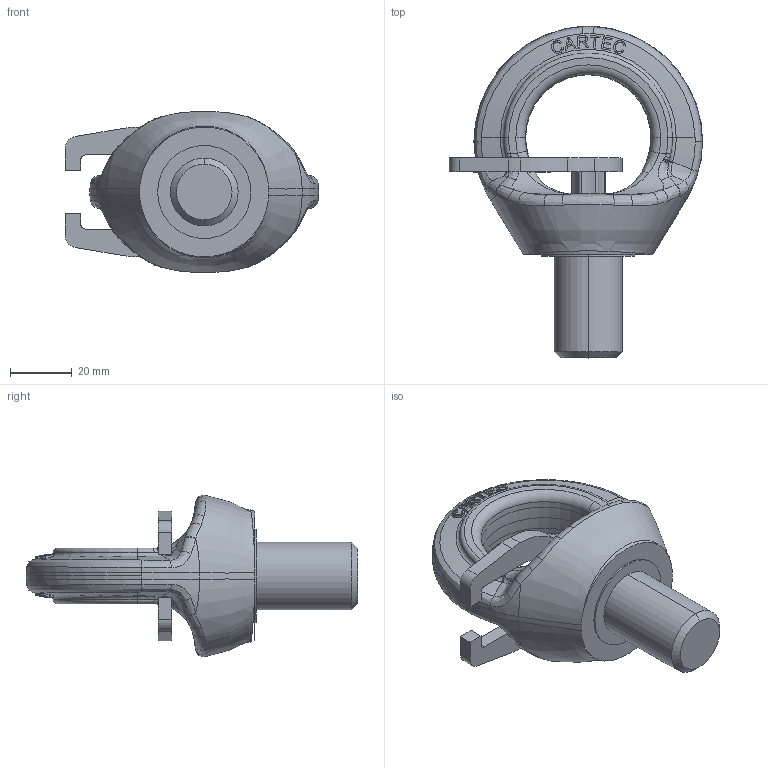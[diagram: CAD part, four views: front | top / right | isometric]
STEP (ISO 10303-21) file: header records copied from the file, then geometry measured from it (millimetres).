
FILE_DESCRIPTION(('STEP AP214'),'1');
FILE_NAME('c807ht22.stp','2017-03-27T13:30:45',('TraceParts'),('TraceParts S.A.'),'Spatial InterOp 3D',' ',' ');
FILE_SCHEMA(('automotive_design'));
Length unit declared in the file: millimetre
Products named in the file (3): c807ht22_1; c807ht22_2; c807ht22_3
Bounding box: 82.06 x 107.56 x 52.32 mm (x, y, z)
Volume: 88216.6 mm3; surface area: 25534.3 mm2
Topology: 3 solids, 3 shells, 425 faces, 1113 edges, 696 vertices
Faces by surface type: bspline 177, plane 131, cylinder 65, torus 34, cone 18
Entity records: 38861 total; most frequent: CARTESIAN_POINT 26050, ORIENTED_EDGE 2194, DIRECTION 1610, EDGE_CURVE 1097, VERTEX_POINT 696, AXIS2_PLACEMENT_3D 613, EDGE_LOOP 447, STYLED_ITEM 428
